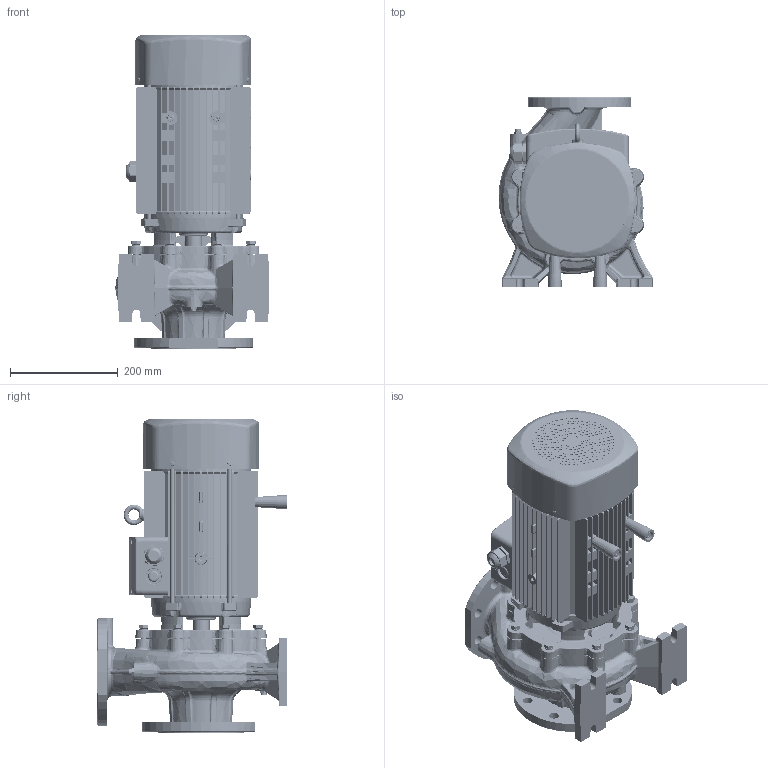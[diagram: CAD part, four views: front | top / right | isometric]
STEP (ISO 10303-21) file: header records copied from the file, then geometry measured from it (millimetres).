
FILE_DESCRIPTION (( 'STEP AP203' ), '1' );
FILE_NAME ('TST80-125-7.5假蚾喜渡芞.STEP', '2026-04-20T08:59:44', ( '' ), ( '' ), 'SwSTEP 2.0', 'SolidWorks 2020', '' );
FILE_SCHEMA (( 'CONFIG_CONTROL_DESIGN' ));
Length unit declared in the file: millimetre
Products named in the file (1): TST80-125-7.5假蚾喜渡芞
Bounding box: 287.11 x 353.53 x 582.47 mm (x, y, z)
Volume: 20029745.5 mm3; surface area: 1293695.7 mm2
Topology: 23 solids, 24 shells, 4604 faces, 11467 edges, 7227 vertices
Faces by surface type: cylinder 1704, plane 1256, bspline 963, cone 402, torus 185, sphere 94
Entity records: 281169 total; most frequent: CARTESIAN_POINT 191093, ORIENTED_EDGE 22878, DIRECTION 12144, EDGE_CURVE 11439, B_SPLINE_CURVE_WITH_KNOTS 8033, VERTEX_POINT 7227, AXIS2_PLACEMENT_3D 5422, EDGE_LOOP 5020
